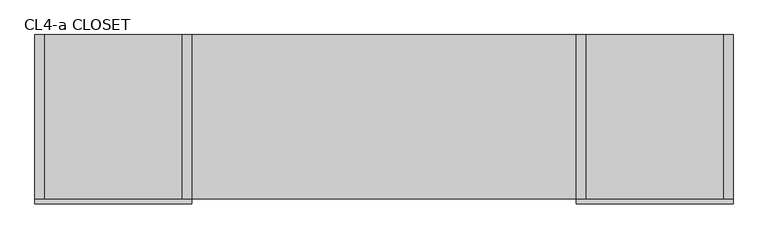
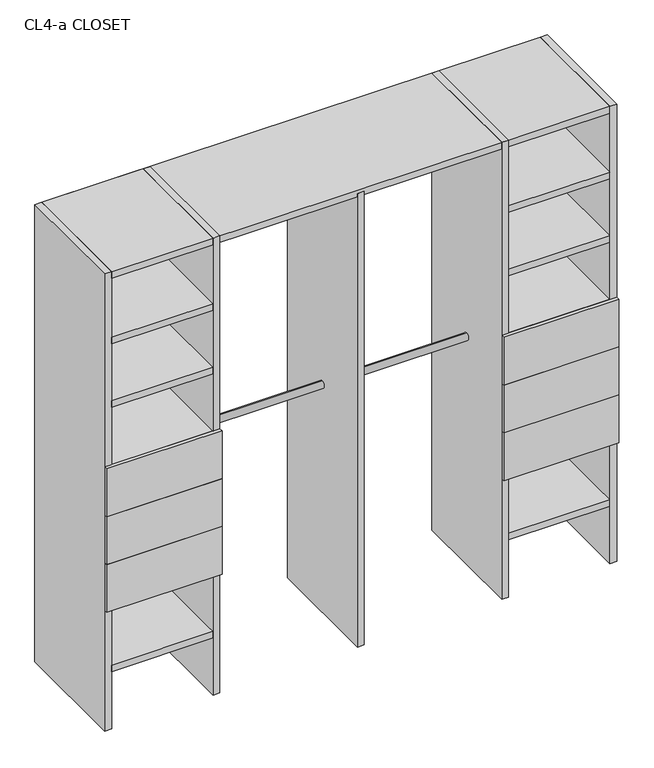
"""IFC4 building model written with IfcOpenShell, lengths in millimetres: furniture geometry, Closet 2estantes-2tubos-centro_sin lateral : CL4-a CLOSET."""

from ifc_helpers import new_model, si_unit, point, frame, frame_2d, origin, origin_with_axes, place, context, project, spatial, polyline, circle_curve, trimmed, segment, composite_curve, outline, extrude, source, transform, mapped, element, save


def cl4_a_closet_81bb138c(model_context):
    return source(origin(), model_context, "Body", "SweptSolid", [
        extrude(outline(polyline([(-1406.3752666, 100.0), (-1435.0, 100.0), (-1435.0, 600.0), (-1406.3752666, 600.0), (-1406.3752666, 100.0)])), origin_with_axes(), (0.0, 0.0, 1.0), 2000.0),
        extrude(outline(polyline([(-808.1876333, 100.0), (-836.8123667, 100.0), (-836.8123667, 600.0), (-808.1876333, 600.0), (-808.1876333, 100.0)])), origin_with_axes(), (0.0, 0.0, 1.0), 1985.0),
        extrude(outline(polyline([(-1855.0, 100.0), (-1883.6247334, 100.0), (-1883.6247334, 600.0), (-1855.0, 600.0), (-1855.0, 100.0)])), origin_with_axes(), (0.0, 0.0, 1.0), 2000.0),
        extrude(outline(polyline([(238.6247334, 100.0), (210.0, 100.0), (210.0, 600.0), (238.6247334, 600.0), (238.6247334, 100.0)])), origin_with_axes(), (0.0, 0.0, 1.0), 2000.0),
        extrude(outline(polyline([(-210.0, 100.0), (-238.6247334, 100.0), (-238.6247334, 600.0), (-210.0, 600.0), (-210.0, 100.0)])), origin_with_axes(), (0.0, 0.0, 1.0), 2000.0),
        extrude(outline(polyline([(-1883.6247334, 85.0), (-1883.6247334, 100.0), (-1406.3752666, 100.0), (-1406.3752666, 85.0), (-1883.6247334, 85.0)])), frame((0.0, 0.0, 946.7910447), z_axis=(0.0, 0.0, 1.0), x_axis=(1.0, 0.0, 0.0)), (0.0, 0.0, 1.0), 209.0831556),
        extrude(outline(polyline([(-1883.6247334, 85.0), (-1883.6247334, 100.0), (-1406.3752666, 100.0), (-1406.3752666, 85.0), (-1883.6247334, 85.0)])), frame((0.0, 0.0, 737.7078891), z_axis=(0.0, 0.0, 1.0), x_axis=(1.0, 0.0, 0.0)), (0.0, 0.0, 1.0), 209.0831556),
        extrude(outline(polyline([(-1883.6247334, 85.0), (-1883.6247334, 100.0), (-1406.3752666, 100.0), (-1406.3752666, 85.0), (-1883.6247334, 85.0)])), frame((0.0, 0.0, 528.6247334), z_axis=(0.0, 0.0, 1.0), x_axis=(1.0, 0.0, 0.0)), (0.0, 0.0, 1.0), 209.0831556),
        extrude(outline(polyline([(-1435.0, 100.0), (-1855.0, 100.0), (-1855.0, 600.0), (-1435.0, 600.0), (-1435.0, 100.0)])), frame((0.0, 0.0, 1127.2494669), z_axis=(0.0, 0.0, 1.0), x_axis=(1.0, 0.0, 0.0)), (0.0, 0.0, 1.0), 28.6247334),
        extrude(outline(polyline([(-1435.0, 100.0), (-1855.0, 100.0), (-1855.0, 600.0), (-1435.0, 600.0), (-1435.0, 100.0)])), frame((0.0, 0.0, 250.0), z_axis=(0.0, 0.0, 1.0), x_axis=(1.0, 0.0, 0.0)), (0.0, 0.0, 1.0), 28.6247334),
        extrude(outline(polyline([(-1435.0, 100.0), (-1855.0, 100.0), (-1855.0, 600.0), (-1435.0, 600.0), (-1435.0, 100.0)])), frame((0.0, 0.0, 528.6247334), z_axis=(0.0, 0.0, 1.0), x_axis=(1.0, 0.0, 0.0)), (0.0, 0.0, 1.0), 28.6247334),
        extrude(outline(polyline([(-1435.0, 100.0), (-1855.0, 100.0), (-1855.0, 600.0), (-1435.0, 600.0), (-1435.0, 100.0)])), frame((0.0, 0.0, 1405.8742003), z_axis=(0.0, 0.0, 1.0), x_axis=(1.0, 0.0, 0.0)), (0.0, 0.0, 1.0), 28.6247334),
        extrude(outline(polyline([(-1435.0, 100.0), (-1855.0, 100.0), (-1855.0, 600.0), (-1435.0, 600.0), (-1435.0, 100.0)])), frame((0.0, 0.0, 1684.4989337), z_axis=(0.0, 0.0, 1.0), x_axis=(1.0, 0.0, 0.0)), (0.0, 0.0, 1.0), 28.6247334),
        extrude(outline(polyline([(-1435.0, 100.0), (-1855.0, 100.0), (-1855.0, 600.0), (-1435.0, 600.0), (-1435.0, 100.0)])), frame((0.0, 0.0, 1971.3752666), z_axis=(0.0, 0.0, 1.0), x_axis=(1.0, 0.0, 0.0)), (0.0, 0.0, 1.0), 28.6247334),
        extrude(outline(polyline([(238.6247334, 100.0), (238.6247334, 85.0), (-238.6247334, 85.0), (-238.6247334, 100.0), (238.6247334, 100.0)])), frame((0.0, 0.0, 946.7910447), z_axis=(0.0, 0.0, 1.0), x_axis=(1.0, 0.0, 0.0)), (0.0, 0.0, 1.0), 209.0831556),
        extrude(outline(polyline([(238.6247334, 100.0), (238.6247334, 85.0), (-238.6247334, 85.0), (-238.6247334, 100.0), (238.6247334, 100.0)])), frame((0.0, 0.0, 737.7078891), z_axis=(0.0, 0.0, 1.0), x_axis=(1.0, 0.0, 0.0)), (0.0, 0.0, 1.0), 209.0831556),
        extrude(outline(polyline([(238.6247334, 100.0), (238.6247334, 85.0), (-238.6247334, 85.0), (-238.6247334, 100.0), (238.6247334, 100.0)])), frame((0.0, 0.0, 528.6247334), z_axis=(0.0, 0.0, 1.0), x_axis=(1.0, 0.0, 0.0)), (0.0, 0.0, 1.0), 209.0831556),
        extrude(outline(polyline([(210.0, 100.0), (-210.0, 100.0), (-210.0, 600.0), (210.0, 600.0), (210.0, 100.0)])), frame((0.0, 0.0, 1127.2494669), z_axis=(0.0, 0.0, 1.0), x_axis=(1.0, 0.0, 0.0)), (0.0, 0.0, 1.0), 28.6247334),
        extrude(outline(composite_curve([segment(trimmed(circle_curve(frame_2d((350.0, 1000.0)), 15.0), [point((350.0, 1015.0))], [point((350.0, 985.0))], False, "CARTESIAN"), True, "CONTINUOUS"), segment(trimmed(circle_curve(frame_2d((350.0, 1000.0)), 15.0), [point((350.0, 985.0))], [point((350.0, 1015.0))], False, "CARTESIAN"), True, "CONTINUOUS")], self_intersect=False)), frame((-1406.3752666, 0.0, 0.0), z_axis=(1.0, 0.0, 0.0), x_axis=(0.0, 1.0, 0.0)), (0.0, 0.0, 1.0), 1167.7505331),
        extrude(outline(composite_curve([segment(trimmed(circle_curve(frame_2d((350.0, 1800.0)), 15.0), [point((350.0, 1815.0))], [point((350.0, 1785.0))], False, "CARTESIAN"), True, "CONTINUOUS"), segment(trimmed(circle_curve(frame_2d((350.0, 1800.0)), 15.0), [point((350.0, 1785.0))], [point((350.0, 1815.0))], False, "CARTESIAN"), True, "CONTINUOUS")], self_intersect=False)), frame((-1406.3752666, 0.0, 0.0), z_axis=(1.0, 0.0, 0.0), x_axis=(0.0, 1.0, 0.0)), (0.0, 0.0, 1.0), 1167.7505331),
        extrude(outline(polyline([(210.0, 100.0), (-210.0, 100.0), (-210.0, 600.0), (210.0, 600.0), (210.0, 100.0)])), frame((0.0, 0.0, 250.0), z_axis=(0.0, 0.0, 1.0), x_axis=(1.0, 0.0, 0.0)), (0.0, 0.0, 1.0), 28.6247334),
        extrude(outline(polyline([(210.0, 100.0), (-210.0, 100.0), (-210.0, 600.0), (210.0, 600.0), (210.0, 100.0)])), frame((0.0, 0.0, 528.6247334), z_axis=(0.0, 0.0, 1.0), x_axis=(1.0, 0.0, 0.0)), (0.0, 0.0, 1.0), 28.6247334),
        extrude(outline(polyline([(210.0, 100.0), (-210.0, 100.0), (-210.0, 600.0), (210.0, 600.0), (210.0, 100.0)])), frame((0.0, 0.0, 1405.8742003), z_axis=(0.0, 0.0, 1.0), x_axis=(1.0, 0.0, 0.0)), (0.0, 0.0, 1.0), 28.6247334),
        extrude(outline(polyline([(210.0, 100.0), (-210.0, 100.0), (-210.0, 600.0), (210.0, 600.0), (210.0, 100.0)])), frame((0.0, 0.0, 1684.4989337), z_axis=(0.0, 0.0, 1.0), x_axis=(1.0, 0.0, 0.0)), (0.0, 0.0, 1.0), 28.6247334),
        extrude(outline(polyline([(-210.0, 100.0), (-1855.0, 100.0), (-1855.0, 600.0), (-210.0, 600.0), (-210.0, 100.0)])), frame((0.0, 0.0, 1971.3752666), z_axis=(0.0, 0.0, 1.0), x_axis=(1.0, 0.0, 0.0)), (0.0, 0.0, 1.0), 28.6247334),
        extrude(outline(polyline([(210.0, 100.0), (-210.0, 100.0), (-210.0, 600.0), (210.0, 600.0), (210.0, 100.0)])), frame((0.0, 0.0, 1971.3752666), z_axis=(0.0, 0.0, 1.0), x_axis=(1.0, 0.0, 0.0)), (0.0, 0.0, 1.0), 28.6247334),
    ])


if __name__ == "__main__":
    model = new_model("IFC4")
    model_context = context("Model", 3, world=origin())
    ifc_project = project(units=[si_unit("LENGTHUNIT", "METRE", prefix="MILLI")], contexts=[model_context])
    site = spatial("IfcSite", under=ifc_project)
    building = spatial("IfcBuilding", under=site)
    placement = place(None, origin())
    cl4_a_closet_shape = cl4_a_closet_81bb138c(model_context)
    element("IfcFurniture", 1, ObjectType="Closet 2estantes-2tubos-centro_sin lateral : CL4-a CLOSET", at=placement, inside=building, context=model_context, shape_type="MappedRepresentation", body=[
        mapped(cl4_a_closet_shape, transform((0.0, 0.0, 0.0), x_axis=(1.0, 0.0, 0.0), y_axis=(0.0, 1.0, 0.0), z_axis=(0.0, 0.0, 1.0))),
    ])
    save(model, "model.ifc")
